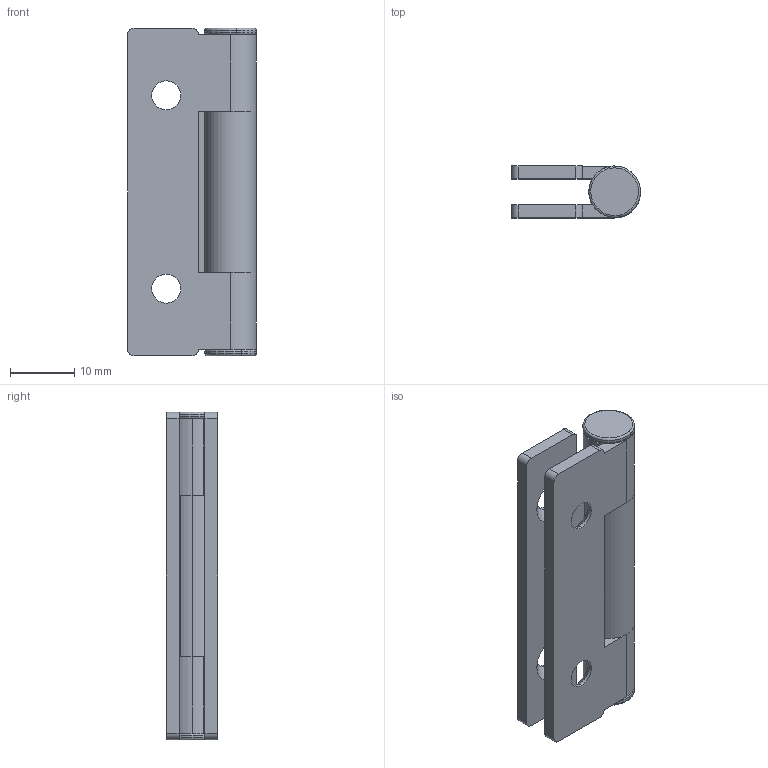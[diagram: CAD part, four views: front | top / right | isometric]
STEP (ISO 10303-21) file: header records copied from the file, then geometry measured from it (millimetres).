
FILE_DESCRIPTION (( 'STEP AP203' ), '1' );
FILE_NAME ('CL152S9C001.STEP', '2016-07-13T06:04:18', ( 'master' ), ( 'Microsoft' ), 'SwSTEP 2.0', 'SolidWorks 2014', '' );
FILE_SCHEMA (( 'CONFIG_CONTROL_DESIGN' ));
Length unit declared in the file: millimetre
Products named in the file (4): CL152隅雄蝓蟈_隅蝓蟈; CL152隅雄蝓蟈_雄蝓蟈; CL152蛌粣; CL152S9C001
Assembly tree (4 placements, depth 2):
  CL152S9C001
    CL152隅雄蝓蟈_隅蝓蟈
    CL152隅雄蝓蟈_雄蝓蟈
    CL152蛌粣  x2
Bounding box: 20 x 8 x 50.8 mm (x, y, z)
Volume: 4737.9 mm3; surface area: 5760.4 mm2
Topology: 4 solids, 4 shells, 102 faces, 244 edges, 156 vertices
Faces by surface type: cylinder 50, plane 32, cone 12, torus 8
Entity records: 2974 total; most frequent: DIRECTION 490, CARTESIAN_POINT 432, ORIENTED_EDGE 416, EDGE_CURVE 208, AXIS2_PLACEMENT_3D 192, VERTEX_POINT 134, VECTOR 106, LINE 106
